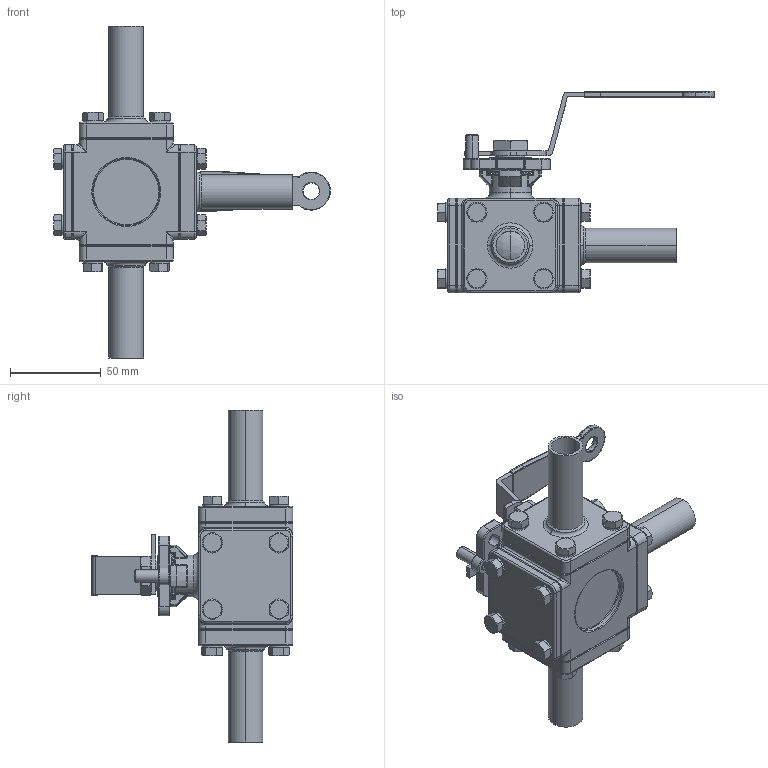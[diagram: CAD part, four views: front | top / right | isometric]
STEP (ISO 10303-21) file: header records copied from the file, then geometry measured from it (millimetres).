
FILE_DESCRIPTION (( 'STEP AP203' ), '1' );
FILE_NAME ('E93WWW-6.75.STEP', '2019-07-02T02:20:24', ( '' ), ( '' ), 'SwSTEP 2.0', 'SolidWorks 2014', '' );
FILE_SCHEMA (( 'CONFIG_CONTROL_DESIGN' ));
Length unit declared in the file: millimetre
Products named in the file (24): 2.3WAY-CAP-W-0.75; 1.3WAY-BODY0.75; 16.BOLT0.75; 20.SEAT BACK0.75; 15.SPRING WASHER0.5-0.75; 12.3WAY-NUT0.5-.0.75; 5.GASKET0.75; E93WWW-6.75; 14.HANDLE0.5-0.75; 18.THINNER NUT0.5-.0.75; 11.STOP PIN0.5-1.0; 19.3WAY-CAP0.75; 21.PLAIN WASHER0.5-0.75; 22.SEAT-R-0.75; 4.SEAT1-0.75; 22.SEAT-L-0.75; 8.STEM PACKING0.75; 6.THRUST WASHER0.75; 7.O-RING0.75; 13.STEM0.75; 9.RING0.5-0.75; 3.3WAY-BALL-0.75-L; 17.LOCKING TAB0.5-0.75; 10.BEVEL WASHER0.5-0.75
Assembly tree (58 placements, depth 2):
  E93WWW-6.75
    1.3WAY-BODY0.75
    13.STEM0.75
    6.THRUST WASHER0.75
    7.O-RING0.75
    8.STEM PACKING0.75
    9.RING0.5-0.75
    3.3WAY-BALL-0.75-L
    10.BEVEL WASHER0.5-0.75  x2
    18.THINNER NUT0.5-.0.75
    17.LOCKING TAB0.5-0.75
    21.PLAIN WASHER0.5-0.75
    22.SEAT-L-0.75
    22.SEAT-R-0.75
    20.SEAT BACK0.75
    5.GASKET0.75  x2
    4.SEAT1-0.75  x2
    19.3WAY-CAP0.75
    15.SPRING WASHER0.5-0.75  x16
    16.BOLT0.75  x16
    11.STOP PIN0.5-1.0
    12.3WAY-NUT0.5-.0.75
    14.HANDLE0.5-0.75
    2.3WAY-CAP-W-0.75  x3
Bounding box: 152.5 x 111.13 x 183 mm (x, y, z)
Volume: 284383.2 mm3; surface area: 137153.8 mm2
Topology: 59 solids, 59 shells, 1477 faces, 3328 edges, 1961 vertices
Faces by surface type: cylinder 556, plane 397, cone 226, torus 191, sphere 58, bspline 49
Entity records: 33717 total; most frequent: CARTESIAN_POINT 7896, DIRECTION 5140, ORIENTED_EDGE 4410, EDGE_CURVE 2205, AXIS2_PLACEMENT_3D 2176, VERTEX_POINT 1305, CIRCLE 1194, EDGE_LOOP 1076
